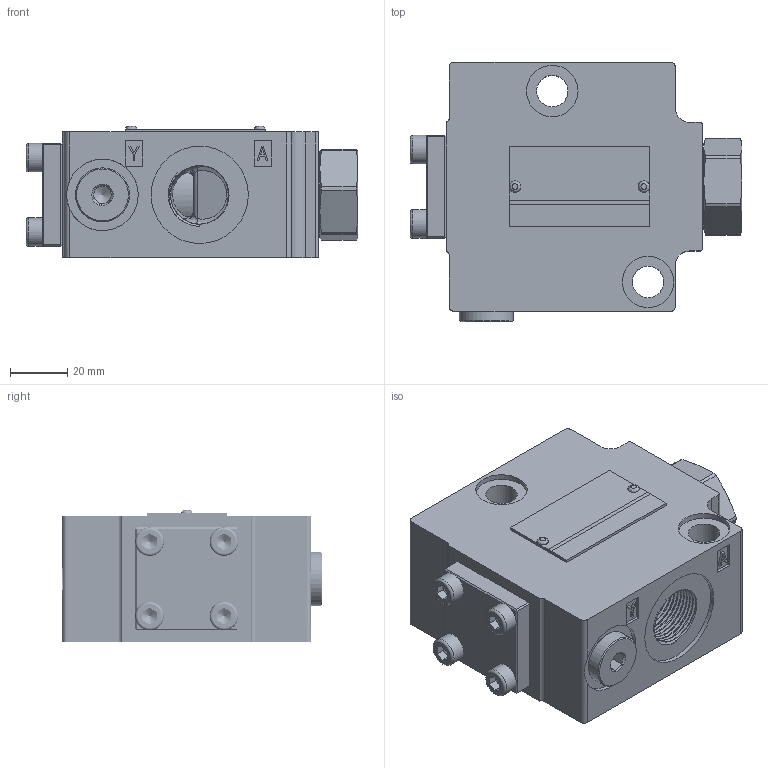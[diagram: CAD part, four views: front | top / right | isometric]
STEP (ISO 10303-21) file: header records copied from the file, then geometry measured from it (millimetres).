
FILE_DESCRIPTION(/* description */ (''),/* implementation_level */ '2;1');
FILE_NAME(/* name */ 'SV10G-4XJ液控单向阀（管式）.prt.stp',/* time_stamp */ '2022-03-30T19:19:18+08:00',/* author */ (''),/* organization */ (''),/* preprocessor_version */ 'ST-DEVELOPER v16.7',/* originating_system */ 'SIEMENS PLM Software NX 12.0',/* authorisation */ '');
FILE_SCHEMA (('AUTOMOTIVE_DESIGN { 1 0 10303 214 3 1 1 1 }'));
Products named in the file (1): SV10G-4XJ液控单向阀（管式）
Bounding box: 116 x 90.7 x 46 mm (x, y, z)
Volume: 308838.1 mm3; surface area: 65183 mm2
Topology: 12 solids, 12 shells, 564 faces, 1405 edges, 901 vertices
Faces by surface type: plane 261, cylinder 154, cone 52, bspline 46, extrusion 26, torus 25
Full cylindrical faces by diameter (mm): 1.8 x2, 1.87 x2, 1.9 x2, 2.459 x1, 3.6 x2, 5 x40, 6.6 x4, 10 x4, 11 x2, 11.093 x1, 11.1 x1, 16.2 x2, 18 x2, 18.2 x1, 18.9 x1, 19.2 x1, 22 x3, 23 x2, 24.8 x2, 25 x2, 27.5 x3, 34 x2, 36 x1
Entity records: 57912 total; most frequent: CARTESIAN_POINT 45937, ORIENTED_EDGE 2262, DIRECTION 2014, EDGE_CURVE 1131, VERTEX_POINT 782, AXIS2_PLACEMENT_3D 747, EDGE_LOOP 679, ADVANCED_FACE 521
